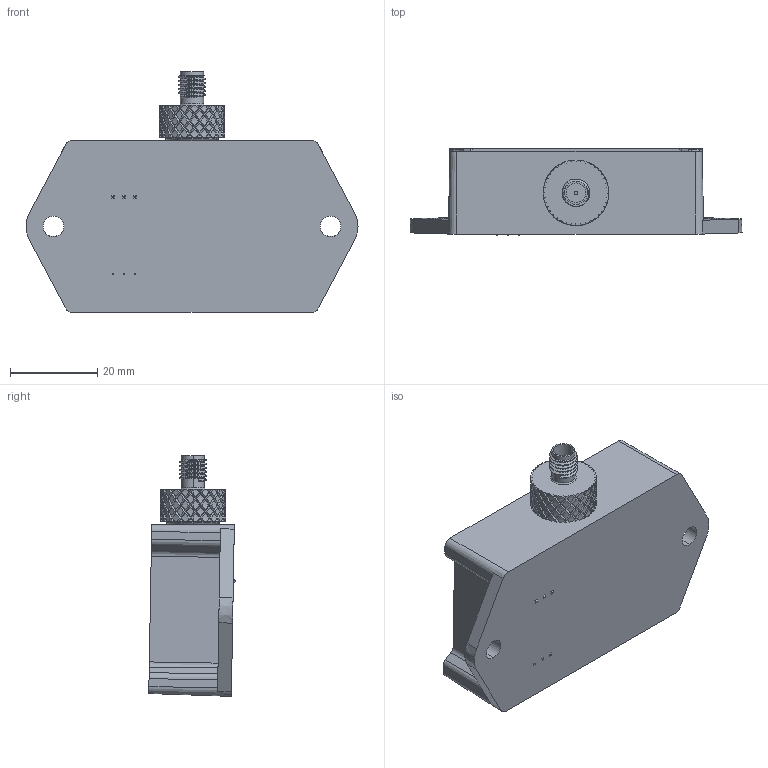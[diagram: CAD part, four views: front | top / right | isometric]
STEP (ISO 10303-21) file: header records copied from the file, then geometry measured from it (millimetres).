
FILE_DESCRIPTION (( 'STEP AP214' ), '1' );
FILE_NAME ('Ezo_Complete.STEP', '2023-09-07T20:03:47', ( '' ), ( '' ), 'SwSTEP 2.0', 'SolidWorks 2020', '' );
FILE_SCHEMA (( 'AUTOMOTIVE_DESIGN' ));
Length unit declared in the file: millimetre
Products named in the file (13): SMA_edge_mount.step; res_0402.step; Board_Ezo-Complete_PCB_3D.step; qfn-16_4x4x0.65.step; CUI_DEVICES_UJ2-MIBH-3-MSMT-TR-67.step; EZO-pH.step; cap_0603.step; aphhs1005-0.step; Ezo_Complete; aphhs1005.step; sop-20ep_6.4x0.5.step; Ezo-Complete_PCB_3D.step; Ezo_Complete+SMA
Assembly tree (28 placements, depth 3):
  Ezo_Complete
    Ezo_Complete+SMA
    Ezo-Complete_PCB_3D.step
      Board_Ezo-Complete_PCB_3D.step
      sop-20ep_6.4x0.5.step
      aphhs1005.step  x2
      aphhs1005-0.step
      EZO-pH.step
      SMA_edge_mount.step
      CUI_DEVICES_UJ2-MIBH-3-MSMT-TR-67.step
      res_0402.step  x14
      cap_0603.step  x3
      qfn-16_4x4x0.65.step
Bounding box: 76.06 x 19.8 x 55.16 mm (x, y, z)
Volume: 15016.8 mm3; surface area: 18884.8 mm2
Topology: 22 solids, 428 shells, 9827 faces, 17950 edges, 8723 vertices
Faces by surface type: plane 7531, bspline 1663, cylinder 558, cone 52, torus 22, sphere 1
Entity records: 282222 total; most frequent: CARTESIAN_POINT 152131, ORIENTED_EDGE 28570, EDGE_CURVE 14532, DIRECTION 13808, B_SPLINE_CURVE_WITH_KNOTS 12363, EDGE_LOOP 7765, ADVANCED_FACE 7643, FACE_OUTER_BOUND 7627
